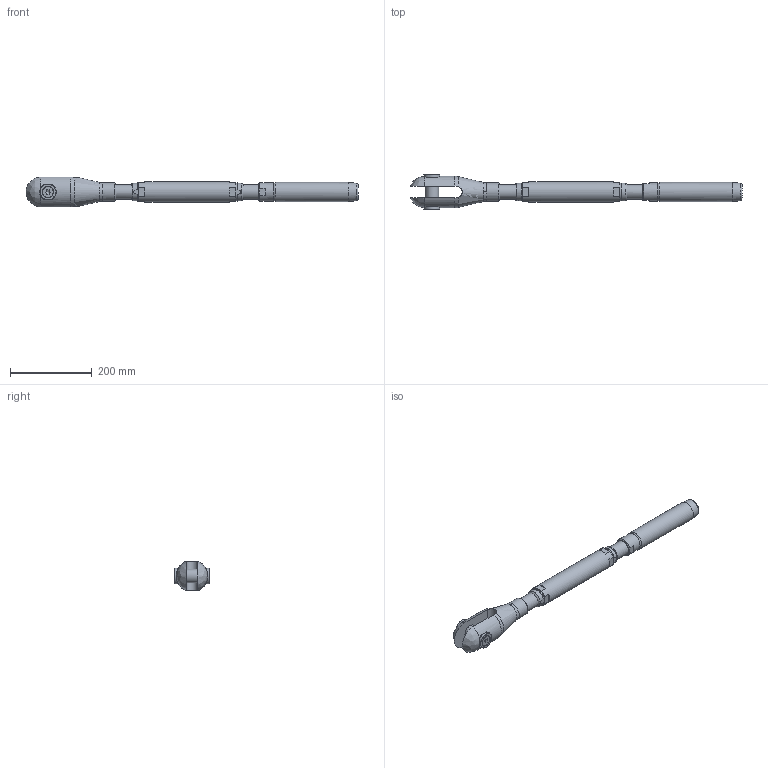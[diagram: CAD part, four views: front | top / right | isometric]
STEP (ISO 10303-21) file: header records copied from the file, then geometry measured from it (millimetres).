
FILE_DESCRIPTION(/* description */ (''),/* implementation_level */ '2;1');
FILE_NAME(/* name */ 'TBC 24_42CrMo4',/* time_stamp */ '2023-05-23T18:16:42+02:00',/* author */ (''),/* organization */ (''),/* preprocessor_version */ 'ST-DEVELOPER v16.5',/* originating_system */ 'Rhino 7.22',/* authorisation */ '');
FILE_SCHEMA (('CONFIG_CONTROL_DESIGN'));
Length unit declared in the file: millimetre
Products named in the file (1): Document
Bounding box: 811.06 x 84.59 x 72.11 mm (x, y, z)
Volume: 1425003.5 mm3; surface area: 227351.2 mm2
Topology: 10 solids, 10 shells, 140 faces, 383 edges, 265 vertices
Faces by surface type: plane 65, bspline 40, cylinder 35
Full cylindrical faces by diameter (mm): 11.835 x2, 14 x2, 14.5 x2, 26.52 x2, 32.752 x4, 33 x1, 35 x2, 36 x2, 39 x2, 40 x1, 44.5 x2, 46.8 x1, 49 x1
Entity records: 5891 total; most frequent: CARTESIAN_POINT 3462, ORIENTED_EDGE 758, EDGE_CURVE 379, VERTEX_POINT 265, EDGE_LOOP 160, B_SPLINE_CURVE_WITH_KNOTS 157, ADVANCED_FACE 140, FACE_OUTER_BOUND 140
